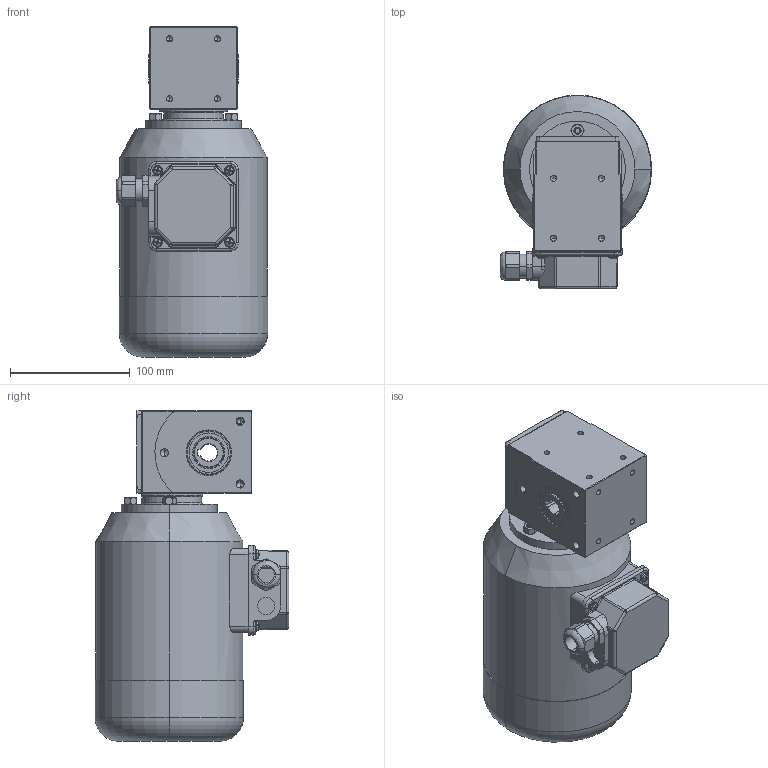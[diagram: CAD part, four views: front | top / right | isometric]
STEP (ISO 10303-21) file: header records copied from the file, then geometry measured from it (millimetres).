
FILE_DESCRIPTION (( 'STEP AP214' ), '1' );
FILE_NAME ('SN14H_180W_Drehstrom-Motor_B.STEP', '2022-08-01T09:04:55', ( '' ), ( '' ), 'SwSTEP 2.0', 'SolidWorks 2021', '' );
FILE_SCHEMA (( 'AUTOMOTIVE_DESIGN' ));
Length unit declared in the file: millimetre
Products named in the file (10): hex nut style 1 gradeab_iso_ISO - 4032 - M6 - D - C; 14H-G-001_3D-Export; 03BH-W-002_3D-Export; SN14H_180W_Drehstrom-Motor_B; socket set screw flat point_iso_ISO 4026 - M6 x 20-C; 04B-D-003; hexa csunk flathd screw_iso_ISO 14581 M5x12x12-C; NBR_WDR_25x37x7; 03-M-269 I 180W_1400Upm; SN14H_3D-Export
Assembly tree (17 placements, depth 3):
  SN14H_180W_Drehstrom-Motor_B
    SN14H_3D-Export
      14H-G-001_3D-Export
      04B-D-003
      03BH-W-002_3D-Export
      NBR_WDR_25x37x7  x2
      hexa csunk flathd screw_iso_ISO 14581 M5x12x12-C  x4
      socket set screw flat point_iso_ISO 4026 - M6 x 20-C  x3
      hex nut style 1 gradeab_iso_ISO - 4032 - M6 - D - C  x3
    03-M-269 I 180W_1400Upm
Bounding box: 126.5 x 162 x 276 mm (x, y, z)
Volume: 2767494 mm3; surface area: 216472.9 mm2
Topology: 18 solids, 18 shells, 919 faces, 2369 edges, 1468 vertices
Faces by surface type: cylinder 301, plane 284, cone 232, bspline 95, torus 7
Entity records: 25480 total; most frequent: CARTESIAN_POINT 8123, ORIENTED_EDGE 3714, DIRECTION 3195, EDGE_CURVE 1857, AXIS2_PLACEMENT_3D 1190, VERTEX_POINT 1190, LINE 815, VECTOR 815
